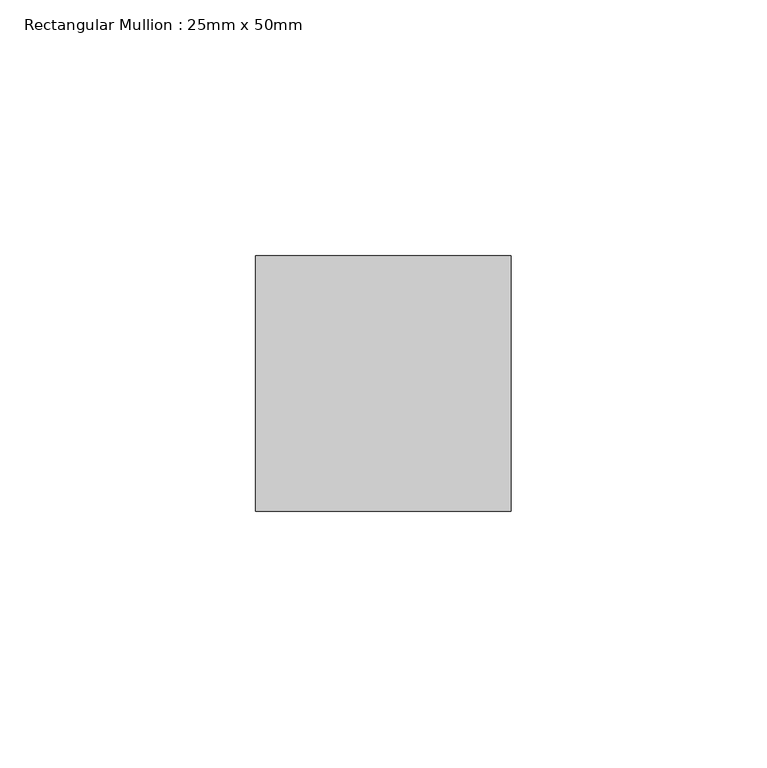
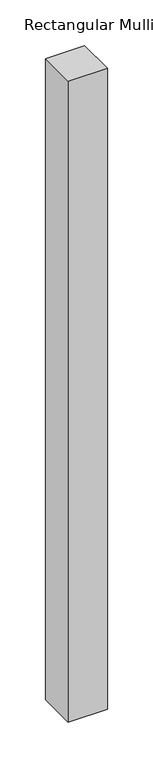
"""IFC4 building model written with IfcOpenShell, lengths in millimetres: member geometry, Rectangular Mullion : 25mm x 50mm."""

import ifcopenshell
import ifcopenshell.guid

model = None  # the IFC model being written
_history = None  # IfcOwnerHistory: only IFC2X3 demands one
_inside = {}  # id of a spatial element -> (the spatial element, [elements in it])
_under = {}  # id of a project, library or spatial element -> (it, [spatial elements below it])
_declared = {}  # id of a project -> (the project, [libraries it declares])
_typed = {}  # id of a type object -> (the type object, [elements of that type])
_made_of = {}  # id of a material, layer set ... -> (it, [elements and type objects made of it])


def new_model(schema):
    """Start an empty IFC model of exactly this schema.

    Asked for "IFC4X3", IfcOpenShell would pick the latest addendum, in which some entities
    have other attributes; the version numbers below select the first issue.
    IFC2X3 requires an IfcOwnerHistory on every rooted entity: one is made here for all.
    """
    global model, _history
    if schema == "IFC4X3":
        model = ifcopenshell.file(schema_version=(4, 3, 0, 0))
    else:
        model = ifcopenshell.file(schema=schema)
    _inside.clear()
    _under.clear()
    _declared.clear()
    _typed.clear()
    _made_of.clear()
    _history = None
    if model.schema == "IFC2X3":
        org = make("IfcOrganization", Name="unknown")
        user = make(
            "IfcPersonAndOrganization",
            ThePerson=make("IfcPerson", FamilyName="unknown"),
            TheOrganization=org,
        )
        app = make(
            "IfcApplication",
            ApplicationDeveloper=org,
            Version="unknown",
            ApplicationFullName="unknown",
            ApplicationIdentifier="unknown",
        )
        _history = make(
            "IfcOwnerHistory",
            OwningUser=user,
            OwningApplication=app,
            ChangeAction="ADDED",
            CreationDate=0,
        )
    return model


def make(cls, **values):
    """One entity of the class cls with the attributes given. An attribute that is None is left unset."""
    return model.create_entity(
        cls, **{name: value for name, value in values.items() if value is not None}
    )


def rooted(cls, **values):
    """An entity with a GlobalId (a new one), such as an element, a storey or a relation."""
    return make(cls, GlobalId=ifcopenshell.guid.new(), OwnerHistory=_history, **values)


def si_unit(unit_type, name, prefix=None):
    """IfcSIUnit, for example si_unit("LENGTHUNIT", "METRE", prefix="MILLI")."""
    return make("IfcSIUnit", UnitType=unit_type, Prefix=prefix, Name=name)


def assignment(units):
    """IfcUnitAssignment: the units of a project."""
    return None if units is None else make("IfcUnitAssignment", Units=units)


def point(xyz):
    """IfcCartesianPoint."""
    return None if xyz is None else make("IfcCartesianPoint", Coordinates=xyz)


def direction(xyz):
    """IfcDirection."""
    return None if xyz is None else make("IfcDirection", DirectionRatios=xyz)


def frame(location, z_axis=None, x_axis=None):
    """IfcAxis2Placement3D, a coordinate frame: its origin and axes. An axis left out is left unset."""
    return make(
        "IfcAxis2Placement3D",
        Location=point(location),
        Axis=direction(z_axis),
        RefDirection=direction(x_axis),
    )


def origin():
    """The frame at (0, 0, 0) with its axes left unset."""
    return frame((0.0, 0.0, 0.0))


def place(relative_to, where):
    """IfcLocalPlacement: puts the frame where relative to a parent placement (None: the world)."""
    return make(
        "IfcLocalPlacement", PlacementRelTo=relative_to, RelativePlacement=where
    )


def context(
    kind, dimensions, precision=None, world=None, true_north=None, identifier=None
):
    """IfcGeometricRepresentationContext, for example the 3D "Model" context."""
    return make(
        "IfcGeometricRepresentationContext",
        ContextIdentifier=identifier,
        ContextType=kind,
        CoordinateSpaceDimension=dimensions,
        Precision=precision,
        WorldCoordinateSystem=world,
        TrueNorth=true_north,
    )


def project(units=None, contexts=None):
    """IfcProject with its units and contexts."""
    return rooted(
        "IfcProject",
        Name="project",
        RepresentationContexts=contexts,
        UnitsInContext=assignment(units),
    )


def spatial(cls, under=None, at=None, **own):
    """A site, building, storey or space (cls), placed at a placement, below another one or the project."""
    s = rooted(cls, ObjectPlacement=at, **own)
    if under is not None:
        _under.setdefault(under.id(), (under, []))[1].append(s)
    return s


def polyline(points):
    """IfcPolyline through the points."""
    return make("IfcPolyline", Points=[point(p) for p in points])


def outline(outer, holes=None, kind="AREA"):
    """IfcArbitraryClosedProfileDef: a profile drawn as a closed curve; with holes, ...WithVoids."""
    if holes is None:
        return make("IfcArbitraryClosedProfileDef", ProfileType=kind, OuterCurve=outer)
    return make(
        "IfcArbitraryProfileDefWithVoids",
        ProfileType=kind,
        OuterCurve=outer,
        InnerCurves=holes,
    )


def extrude(swept, where, along, depth):
    """IfcExtrudedAreaSolid: the profile swept, set in the frame where, extruded along a direction by depth."""
    return make(
        "IfcExtrudedAreaSolid",
        SweptArea=swept,
        Position=where,
        ExtrudedDirection=direction(along),
        Depth=depth,
    )


def shape(context_of_items, identifier, shape_type, items):
    """IfcShapeRepresentation: the items that make up one representation, for example the "Body"."""
    return make(
        "IfcShapeRepresentation",
        ContextOfItems=context_of_items,
        RepresentationIdentifier=identifier,
        RepresentationType=shape_type,
        Items=items,
    )


def source(mapping_origin, context_of_items, identifier, shape_type, items):
    """IfcRepresentationMap: a shape defined once, which mapped items show again and again."""
    return make(
        "IfcRepresentationMap",
        MappingOrigin=mapping_origin,
        MappedRepresentation=shape(context_of_items, identifier, shape_type, items),
    )


def transform(
    local_origin,
    x_axis=None,
    y_axis=None,
    z_axis=None,
    scale=None,
    scale2=None,
    scale3=None,
    uniform=True,
):
    """IfcCartesianTransformationOperator3D, or its non-uniform kind. x_axis, y_axis, z_axis: its Axis1, 2, 3."""
    if uniform:
        return make(
            "IfcCartesianTransformationOperator3D",
            Axis1=direction(x_axis),
            Axis2=direction(y_axis),
            LocalOrigin=point(local_origin),
            Scale=scale,
            Axis3=direction(z_axis),
        )
    return make(
        "IfcCartesianTransformationOperator3DnonUniform",
        Axis1=direction(x_axis),
        Axis2=direction(y_axis),
        LocalOrigin=point(local_origin),
        Scale=scale,
        Axis3=direction(z_axis),
        Scale2=scale2,
        Scale3=scale3,
    )


def mapped(mapping_source, mapping_target):
    """IfcMappedItem: shows the shape of a source again, moved by a transform."""
    return make(
        "IfcMappedItem", MappingSource=mapping_source, MappingTarget=mapping_target
    )


def made_of(thing, what):
    """Note that an element or type object is made of a material, layer set ...; save() writes the relation."""
    if what is not None:
        _made_of.setdefault(what.id(), (what, []))[1].append(thing)
    return thing


def element(
    cls,
    number,
    at=None,
    inside=None,
    cuts=None,
    type_object=None,
    material=None,
    context=None,
    identifier="Body",
    shape_type=None,
    held_by="IfcProductDefinitionShape",
    body=None,
    shapes=None,
    **own,
):
    """One element of the class cls, such as IfcWall. Its Tag is "e" and its number.

    at: its placement. inside: the storey or other place that contains it. cuts: it is an
    opening in that element (IfcRelVoidsElement). A single representation is given by context,
    identifier, shape_type and body (its items); several are given by shapes. held_by: the class
    of the entity that holds the representations. save() writes the other relations.
    """
    e = rooted(cls, Tag="e%d" % number, ObjectPlacement=at, **own)
    if body is not None:
        shapes = [shape(context, identifier, shape_type, body)]
    if shapes is not None:
        e.Representation = make(held_by, Representations=shapes)
    if inside is not None:
        _inside.setdefault(inside.id(), (inside, []))[1].append(e)
    if cuts is not None:
        rooted(
            "IfcRelVoidsElement", RelatingBuildingElement=cuts, RelatedOpeningElement=e
        )
    if type_object is not None:
        _typed.setdefault(type_object.id(), (type_object, []))[1].append(e)
    return made_of(e, material)


def aggregate(whole, parts):
    """IfcRelAggregates: a whole, such as a stair, and the parts it consists of."""
    return rooted("IfcRelAggregates", RelatingObject=whole, RelatedObjects=parts)


def save(model, path):
    """Write the relations noted so far, then the file.

    IfcRelAggregates (storeys below a building ...), IfcRelContainedInSpatialStructure (elements
    in a storey), IfcRelDefinesByType, IfcRelAssociatesMaterial and IfcRelDeclares: one each for
    every whole, place, type object, material and project.
    """
    for whole, parts in _under.values():
        aggregate(whole, parts)
    for where, things in _inside.values():
        rooted(
            "IfcRelContainedInSpatialStructure",
            RelatedElements=things,
            RelatingStructure=where,
        )
    for kind, things in _typed.values():
        rooted("IfcRelDefinesByType", RelatedObjects=things, RelatingType=kind)
    for what, things in _made_of.values():
        rooted("IfcRelAssociatesMaterial", RelatedObjects=things, RelatingMaterial=what)
    for by, libraries in _declared.values():
        rooted("IfcRelDeclares", RelatingContext=by, RelatedDefinitions=libraries)
    model.write(path)


def rectangular_mullion_25mm_x_50mm_d6207746(model_context):
    return source(origin(), model_context, "Body", "SweptSolid", [
        extrude(outline(polyline([(0.0, 25.0), (0.0, -25.0), (-50.0, -25.0), (-50.0, 25.0), (0.0, 25.0)])), frame((0.0, 0.0, -860.0), z_axis=(0.0, 0.0, 1.0), x_axis=(1.0, 0.0, 0.0)), (0.0, 0.0, 1.0), 860.0),
    ])


if __name__ == "__main__":
    model = new_model("IFC4")
    model_context = context("Model", 3, world=origin())
    ifc_project = project(units=[si_unit("LENGTHUNIT", "METRE", prefix="MILLI")], contexts=[model_context])
    site = spatial("IfcSite", under=ifc_project)
    building = spatial("IfcBuilding", under=site)
    placement = place(None, origin())
    rectangular_mullion_25mm_x_50mm_shape = rectangular_mullion_25mm_x_50mm_d6207746(model_context)
    element("IfcMember", 1, ObjectType="Rectangular Mullion : 25mm x 50mm", at=placement, inside=building, context=model_context, shape_type="MappedRepresentation", body=[
        mapped(rectangular_mullion_25mm_x_50mm_shape, transform((0.0, 0.0, 0.0), x_axis=(1.0, 0.0, 0.0), y_axis=(0.0, 1.0, 0.0), z_axis=(0.0, 0.0, 1.0))),
    ])
    save(model, "model.ifc")
